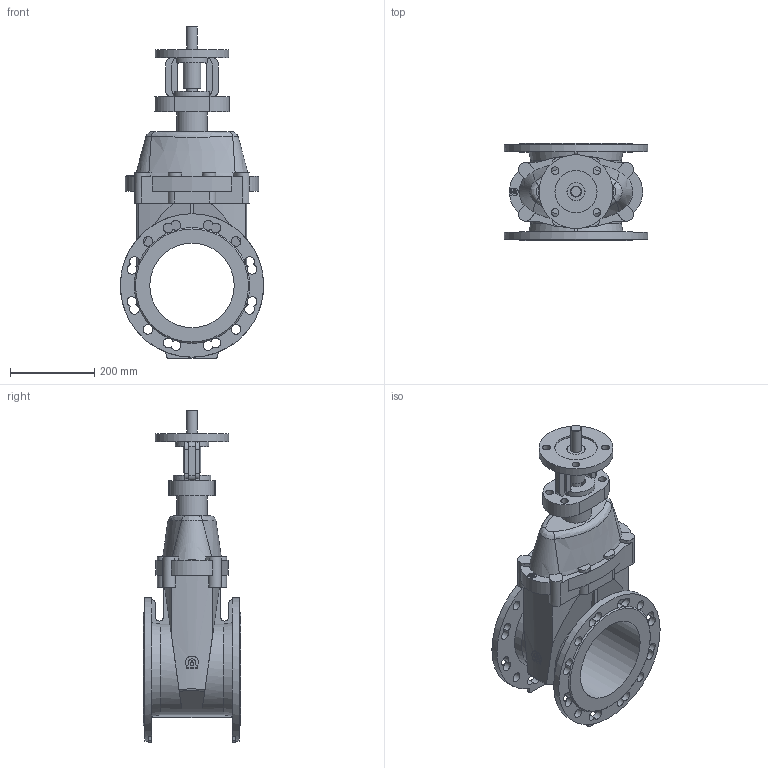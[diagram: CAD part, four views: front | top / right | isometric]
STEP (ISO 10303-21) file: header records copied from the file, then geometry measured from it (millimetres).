
FILE_DESCRIPTION(('STEP AP203'), '1');
FILE_NAME('Çàäâèæêà 47GV.M DN200 ñ ïåðåõîäîì ïîä ISO ôëàíåö', '', ('UNSPECIFIED'), ('UNSPECIFIED'), 'ASCON STEP Converter 1.6', 'ASCON Math Kernel', '');
FILE_SCHEMA(('CONFIG_CONTROL_DESIGN'));
Length unit declared in the file: millimetre
Bounding box: 340 x 230 x 787 mm (x, y, z)
Volume: 13389660 mm3; surface area: 980724.4 mm2
Topology: 1 solids, 1 shells, 284 faces, 856 edges, 569 vertices
Faces by surface type: cylinder 139, plane 128, bspline 10, cone 7
Full cylindrical faces by diameter (mm): 18 x8, 23 x8, 26 x2, 42 x1, 43 x1, 46 x1, 72 x1, 90 x1, 100 x1, 175 x1, 200 x1, 340 x2
Entity records: 17571 total; most frequent: CARTESIAN_POINT 7531, ORIENTED_EDGE 1650, DIRECTION 1596, EDGE_CURVE 825, AXIS2_PLACEMENT_3D 640, VERTEX_POINT 569, EDGE_LOOP 380, CIRCLE 365
